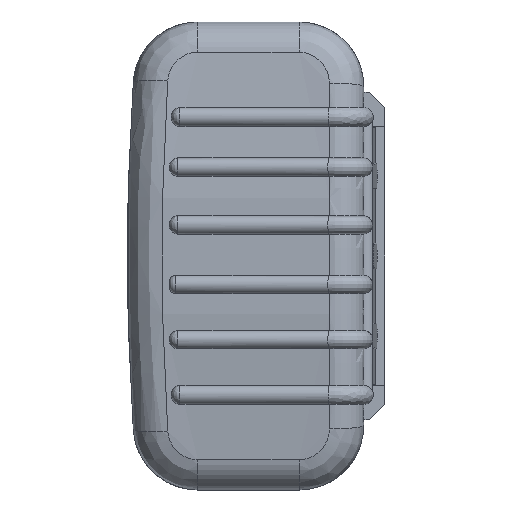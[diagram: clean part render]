
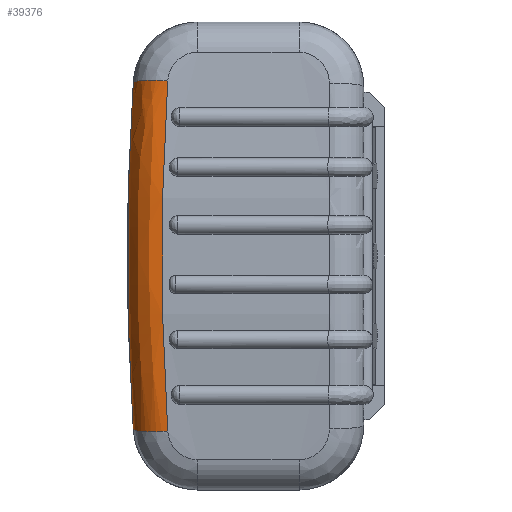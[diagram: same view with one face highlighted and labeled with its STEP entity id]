
A CAD part, left-side view. The second image highlights one B-rep face of the part: STEP entity #39376.
In plain terms, the highlighted free-form (B-spline) face has degree [3, 2] with [6, 3] control points.
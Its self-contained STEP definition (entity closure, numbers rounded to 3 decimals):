
#1426 = CARTESIAN_POINT ( 'NONE',  ( 88.449, 53.371, -41.074 ) ) ;
#1568 = CARTESIAN_POINT ( 'NONE',  ( 90.667, 54.777, 13.695 ) ) ;
#4317 = CARTESIAN_POINT ( 'NONE',  ( 91.383, 47.219, 0. ) ) ;
#4768 = AXIS2_PLACEMENT_3D ( 'NONE', #27738, #6620, #31279 ) ;
#5082 = CARTESIAN_POINT ( 'NONE',  ( 81.965, 54.328, 26.823 ) ) ;
#5723 = VERTEX_POINT ( 'NONE', #38255 ) ;
#6620 = DIRECTION ( 'NONE',  ( -0.106, -0.067, 0.992 ) ) ;
#7458 = VERTEX_POINT ( 'NONE', #35514 ) ;
#7832 = CARTESIAN_POINT ( 'NONE',  ( 88.505, 45.446, 40.548 ) ) ;
#8333 = EDGE_CURVE ( 'NONE', #5723, #7458, #15393, .T. ) ;
#8637 = CARTESIAN_POINT ( 'NONE',  ( 89.95, 46.334, 27.032 ) ) ;
#9850 = CARTESIAN_POINT ( 'NONE',  ( 81.965, 54.328, -26.822 ) ) ;
#10566 = DIRECTION ( 'NONE',  ( 0.106, 0.067, 0.992 ) ) ;
#12001 = CARTESIAN_POINT ( 'NONE',  ( 81.965, 54.328, -26.823 ) ) ;
#12151 = CARTESIAN_POINT ( 'NONE',  ( 88.449, 53.371, 41.074 ) ) ;
#13104 =( BOUNDED_SURFACE ( )  B_SPLINE_SURFACE ( 3, 2, ( 
 ( #26001, #1426, #33121 ),
 ( #12001, #36641, #15496 ),
 ( #40188, #19070, #43688 ),
 ( #22609, #1568, #26164 ),
 ( #5082, #29738, #8637 ),
 ( #33269, #12151, #36788 ) ),
 .UNSPECIFIED., .F., .F., .F. ) 
 B_SPLINE_SURFACE_WITH_KNOTS ( ( 4, 2, 4 ),
 ( 3, 3 ),
 ( 0., 0.04, 0.079 ),
 ( 0., 1. ),
 .UNSPECIFIED. ) 
 GEOMETRIC_REPRESENTATION_ITEM ( )  RATIONAL_B_SPLINE_SURFACE ( (
 ( 1., 0.71, 1.),
 ( 1., 0.708, 1.),
 ( 1., 0.707, 1.),
 ( 1., 0.707, 1.),
 ( 1., 0.708, 1.),
 ( 1., 0.71, 1.) ) ) 
 REPRESENTATION_ITEM ( '' )  SURFACE ( )  );
#13239 = ORIENTED_EDGE ( 'NONE', *, *, #29127, .T. ) ;
#14742 = CARTESIAN_POINT ( 'NONE',  ( 89.95, 46.334, -27.032 ) ) ;
#15393 = CIRCLE ( 'NONE', #4768, 8. ) ;
#15496 = CARTESIAN_POINT ( 'NONE',  ( 89.95, 46.334, -27.032 ) ) ;
#17530 = B_SPLINE_CURVE_WITH_KNOTS ( 'NONE', 3,
 ( #18300, #14742, #4317, #28957, #7832 ),
 .UNSPECIFIED., .F., .F.,
 ( 4, 1, 4 ),
 ( 0., 0.041, 0.081 ),
 .UNSPECIFIED. ) ;
#17887 = ORIENTED_EDGE ( 'NONE', *, *, #39566, .F. ) ;
#18300 = CARTESIAN_POINT ( 'NONE',  ( 88.505, 45.446, -40.548 ) ) ;
#18928 = CIRCLE ( 'NONE', #41057, 8. ) ;
#19070 = CARTESIAN_POINT ( 'NONE',  ( 90.667, 54.777, -13.695 ) ) ;
#19925 = FACE_OUTER_BOUND ( 'NONE', #21594, .T. ) ;
#21594 = EDGE_LOOP ( 'NONE', ( #13239, #17887, #38145, #44550 ) ) ;
#22609 = CARTESIAN_POINT ( 'NONE',  ( 82.667, 54.777, 13.411 ) ) ;
#26001 = CARTESIAN_POINT ( 'NONE',  ( 80.55, 53.428, -40.234 ) ) ;
#26164 = CARTESIAN_POINT ( 'NONE',  ( 90.667, 46.777, 13.516 ) ) ;
#26967 = EDGE_CURVE ( 'NONE', #28424, #5723, #17530, .T. ) ;
#27419 = CARTESIAN_POINT ( 'NONE',  ( 80.55, 53.428, 40.234 ) ) ;
#27738 = CARTESIAN_POINT ( 'NONE',  ( 80.55, 45.446, 39.698 ) ) ;
#28424 = VERTEX_POINT ( 'NONE', #41844 ) ;
#28957 = CARTESIAN_POINT ( 'NONE',  ( 89.95, 46.334, 27.032 ) ) ;
#29127 = EDGE_CURVE ( 'NONE', #28424, #37079, #18928, .T. ) ;
#29738 = CARTESIAN_POINT ( 'NONE',  ( 89.935, 54.311, 27.357 ) ) ;
#30943 = CARTESIAN_POINT ( 'NONE',  ( 83.368, 55.225, 0. ) ) ;
#31279 = DIRECTION ( 'NONE',  ( 0.994, 0., 0.106 ) ) ;
#31670 = CARTESIAN_POINT ( 'NONE',  ( 80.55, 45.446, -39.698 ) ) ;
#32715 = CARTESIAN_POINT ( 'NONE',  ( 80.55, 53.428, -40.234 ) ) ;
#33121 = CARTESIAN_POINT ( 'NONE',  ( 88.505, 45.446, -40.548 ) ) ;
#33269 = CARTESIAN_POINT ( 'NONE',  ( 80.55, 53.428, 40.234 ) ) ;
#34314 = B_SPLINE_CURVE_WITH_KNOTS ( 'NONE', 3,
 ( #27419, #44916, #30943, #9850, #34497 ),
 .UNSPECIFIED., .F., .F.,
 ( 4, 1, 4 ),
 ( 0., 0.04, 0.08 ),
 .UNSPECIFIED. ) ;
#34497 = CARTESIAN_POINT ( 'NONE',  ( 80.55, 53.428, -40.234 ) ) ;
#35214 = DIRECTION ( 'NONE',  ( 0.994, 0., -0.106 ) ) ;
#35514 = CARTESIAN_POINT ( 'NONE',  ( 80.55, 53.428, 40.234 ) ) ;
#36641 = CARTESIAN_POINT ( 'NONE',  ( 89.935, 54.311, -27.357 ) ) ;
#36788 = CARTESIAN_POINT ( 'NONE',  ( 88.505, 45.446, 40.548 ) ) ;
#37079 = VERTEX_POINT ( 'NONE', #32715 ) ;
#38145 = ORIENTED_EDGE ( 'NONE', *, *, #8333, .F. ) ;
#38255 = CARTESIAN_POINT ( 'NONE',  ( 88.505, 45.446, 40.548 ) ) ;
#39376 = ADVANCED_FACE ( 'NONE', ( #19925 ), #13104, .T. ) ;
#39566 = EDGE_CURVE ( 'NONE', #7458, #37079, #34314, .T. ) ;
#40188 = CARTESIAN_POINT ( 'NONE',  ( 82.667, 54.777, -13.411 ) ) ;
#41057 = AXIS2_PLACEMENT_3D ( 'NONE', #31670, #10566, #35214 ) ;
#41844 = CARTESIAN_POINT ( 'NONE',  ( 88.505, 45.446, -40.548 ) ) ;
#43688 = CARTESIAN_POINT ( 'NONE',  ( 90.667, 46.777, -13.516 ) ) ;
#44550 = ORIENTED_EDGE ( 'NONE', *, *, #26967, .F. ) ;
#44916 = CARTESIAN_POINT ( 'NONE',  ( 81.965, 54.328, 26.822 ) ) ;
